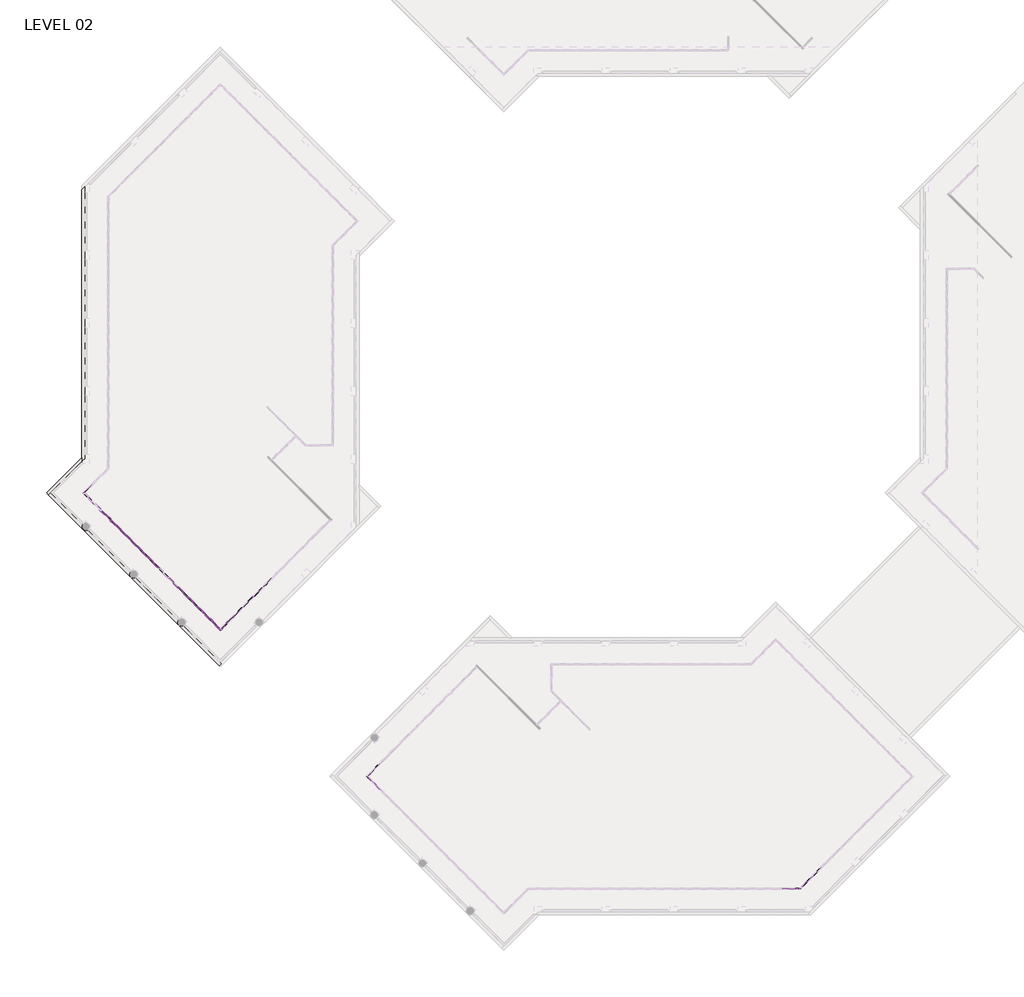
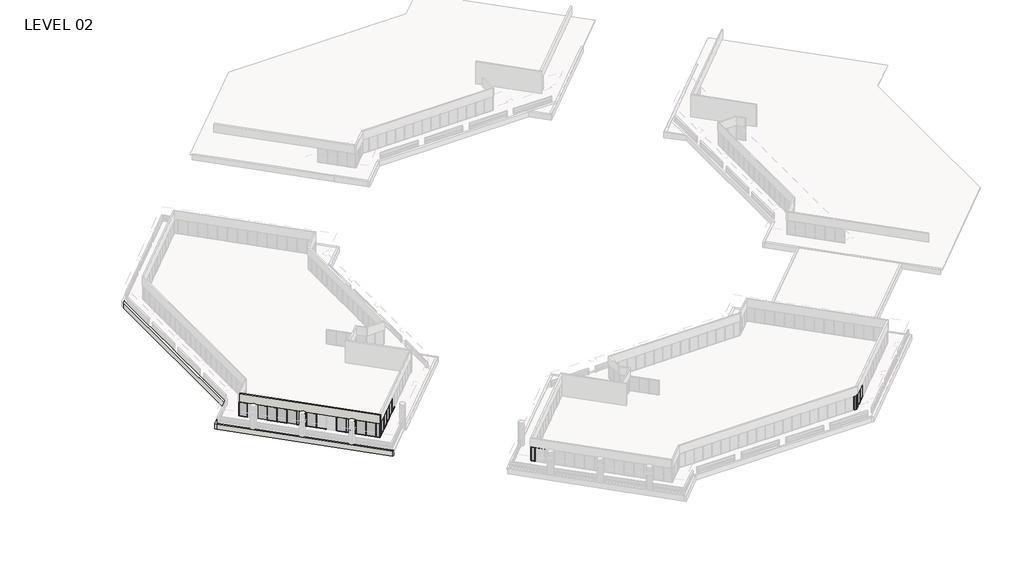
# One storey, part 2 of 19: 77 members, 24 plates, 4 walls.
"""IFC4 building model written with IfcOpenShell, lengths in millimetres."""

from ifc_helpers import new_model, si_unit, origin, place, context, project, spatial, faceted_brep, transform, mapped, element, save
from components import member_5247f267, member_16770488, member_1d3a199d, member_b8d22739, member_e44af9ab, member_800970d4, member_e56bd8eb, member_c23f844a, member_6d95746d, plate_67294edd, plate_53ca565f, plate_8062c6fe, plate_4e8ae714, plate_aaac5d3d, plate_e2551f41, plate_50b9cd61, plate_048e4634, plate_c15461e5

model = new_model("IFC4")

# Units and contexts
model_context = context("Model", 3, world=origin())
ifc_project = project(units=[si_unit("LENGTHUNIT", "METRE", prefix="MILLI")], contexts=[model_context])

# Site, building, storey
site = spatial("IfcSite", under=ifc_project)
building = spatial("IfcBuilding", under=site)
storey = spatial("IfcBuildingStorey", under=building, Name="LEVEL 02", Elevation=4140.2)

# Members
placement = place(None, origin())
member_shape = member_5247f267(model_context)
element("IfcMember", 1, ObjectType="Rectangular Mullion : 2\" x 4.5\" rectangular", at=placement, inside=storey, context=model_context, shape_type="MappedRepresentation", body=[
    mapped(member_shape, transform((-305.3287081, 10934.8596666, 4140.2), x_axis=(0.0, 0.0, -1.0), y_axis=(0.707106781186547, -0.7071067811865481, 0.0), z_axis=(-0.707106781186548, -0.7071067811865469, 0.0))),
])
element("IfcMember", 2, ObjectType="Rectangular Mullion : 2\" x 4.5\" rectangular", at=placement, inside=storey, context=model_context, shape_type="MappedRepresentation", body=[
    mapped(member_shape, transform((49217.02106, -686.9515705, 4140.2), x_axis=(0.0, 0.0, -1.0), y_axis=(0.7071067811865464, -0.7071067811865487, 0.0), z_axis=(-0.7071067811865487, -0.7071067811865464, 0.0))),
])
element("IfcMember", 3, ObjectType="Rectangular Mullion : 2\" x 4.5\" rectangular", at=placement, inside=storey, context=model_context, shape_type="MappedRepresentation", body=[
    mapped(member_shape, transform((48139.3903254, -1764.5823051, 4140.2), x_axis=(0.0, 0.0, -1.0), y_axis=(0.7071067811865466, -0.7071067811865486, 0.0), z_axis=(-0.7071067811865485, -0.7071067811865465, 0.0))),
])
element("IfcMember", 4, ObjectType="Rectangular Mullion : 2\" x 4.5\" rectangular", at=placement, inside=storey, context=model_context, shape_type="MappedRepresentation", body=[
    mapped(member_shape, transform((47326.55, -2101.1671279, 6731.0), x_axis=(0.0, 0.0, 1.0), y_axis=(0.0, -1.0, 0.0), z_axis=(1.0, 0.0, 0.0))),
])
element("IfcMember", 5, ObjectType="Rectangular Mullion : 2\" x 4.5\" rectangular", at=placement, inside=storey, context=model_context, shape_type="MappedRepresentation", body=[
    mapped(member_shape, transform((49181.1000355, -722.872595, 6731.0), x_axis=(0.0, 0.0, 1.0), y_axis=(0.7071067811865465, -0.7071067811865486, 0.0), z_axis=(0.7071067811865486, 0.7071067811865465, 0.0))),
])
element("IfcMember", 6, ObjectType="Rectangular Mullion : 2\" x 4.5\" rectangular", at=placement, inside=storey, context=model_context, shape_type="MappedRepresentation", body=[
    mapped(member_shape, transform((-305.3287081, 10053.2560776, 6731.0), x_axis=(0.0, 0.0, 1.0), y_axis=(0.707106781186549, 0.7071067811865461, 0.0), z_axis=(-0.7071067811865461, 0.707106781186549, 0.0))),
])
member_2_shape = member_16770488(model_context)
element("IfcMember", 7, ObjectType="Rectangular Mullion : 2\" x 4.5\" rectangular", at=placement, inside=storey, context=model_context, shape_type="MappedRepresentation", body=[
    mapped(member_2_shape, transform((47752.0055026, -2101.1671279, 6731.0), x_axis=(0.0, 0.0, 1.0), y_axis=(0.0, -1.0, 0.0), z_axis=(1.0, 0.0, 0.0))),
])
element("IfcMember", 8, ObjectType="Rectangular Mullion : 2\" x 4.5\" rectangular", at=placement, inside=storey, context=model_context, shape_type="MappedRepresentation", body=[
    mapped(member_2_shape, transform((47377.35, -2101.1671279, 4140.2), x_axis=(0.0, 0.0, -1.0), y_axis=(0.0, -1.0, 0.0), z_axis=(-1.0, 0.0, 0.0))),
])
member_3_shape = member_1d3a199d(model_context)
element("IfcMember", 9, ObjectType="Rectangular Mullion : 2\" x 4.5\" rectangular", at=placement, inside=storey, context=model_context, shape_type="MappedRepresentation", body=[
    mapped(member_3_shape, transform((47838.7265271, -2065.2461034, 4140.2), x_axis=(0.0, 0.0, -1.0), y_axis=(0.7071067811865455, -0.7071067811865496, 0.0), z_axis=(-0.7071067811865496, -0.7071067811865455, 0.0))),
])
element("IfcMember", 10, ObjectType="Rectangular Mullion : 2\" x 4.5\" rectangular", at=placement, inside=storey, context=model_context, shape_type="MappedRepresentation", body=[
    mapped(member_3_shape, transform((48103.4693009, -1800.5033295, 6731.0), x_axis=(0.0, 0.0, 1.0), y_axis=(0.7071067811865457, -0.7071067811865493, 0.0), z_axis=(0.7071067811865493, 0.7071067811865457, 0.0))),
])
member_4_shape = member_b8d22739(model_context)
element("IfcMember", 11, ObjectType="Rectangular Mullion : 2\" x 4.5\" rectangular", at=placement, inside=storey, context=model_context, shape_type="MappedRepresentation", body=[
    mapped(member_4_shape, transform((-710.2094781, 10529.9788966, 4140.2), x_axis=(0.0, 0.0, -1.0), y_axis=(0.7071067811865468, -0.7071067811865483, 0.0), z_axis=(-0.7071067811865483, -0.7071067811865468, 0.0))),
])
element("IfcMember", 12, ObjectType="Rectangular Mullion : 2\" x 4.5\" rectangular", at=placement, inside=storey, context=model_context, shape_type="MappedRepresentation", body=[
    mapped(member_4_shape, transform((-341.2497326, 10089.1771021, 4140.2), x_axis=(0.0, 0.0, -1.0), y_axis=(0.7071067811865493, 0.7071067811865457, 0.0), z_axis=(0.7071067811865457, -0.7071067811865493, 0.0))),
])
element("IfcMember", 13, ObjectType="Rectangular Mullion : 2\" x 4.5\" rectangular", at=placement, inside=storey, context=model_context, shape_type="MappedRepresentation", body=[
    mapped(member_4_shape, transform((-710.2094781, 10458.1368476, 6731.0), x_axis=(0.0, 0.0, 1.0), y_axis=(0.7071067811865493, 0.7071067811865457, 0.0), z_axis=(-0.7071067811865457, 0.7071067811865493, 0.0))),
])
element("IfcMember", 14, ObjectType="Rectangular Mullion : 2\" x 4.5\" rectangular", at=placement, inside=storey, context=model_context, shape_type="MappedRepresentation", body=[
    mapped(member_4_shape, transform((-341.2497326, 10898.9386421, 6731.0), x_axis=(0.0, 0.0, 1.0), y_axis=(0.7071067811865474, -0.7071067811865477, 0.0), z_axis=(0.7071067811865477, 0.7071067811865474, 0.0))),
])
member_5_shape = member_e44af9ab(model_context)
element("IfcMember", 15, ObjectType="Rectangular Mullion : 2\" x 4.5\" rectangular", at=placement, inside=storey, context=model_context, shape_type="MappedRepresentation", body=[
    mapped(member_5_shape, transform((-323.2892204, 10916.8991544, 4140.2), x_axis=(0.7071067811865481, 0.7071067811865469, 0.0), y_axis=(0.7071067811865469, -0.7071067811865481, 0.0), z_axis=(0.0, 0.0, -1.0))),
])
element("IfcMember", 16, ObjectType="Rectangular Mullion : 2\" x 4.5\" rectangular", at=placement, inside=storey, context=model_context, shape_type="MappedRepresentation", body=[
    mapped(member_5_shape, transform((47351.95, -2101.1671279, 4140.2), x_axis=(1.0, 0.0, 0.0), y_axis=(0.0, -1.0, 0.0), z_axis=(0.0, 0.0, -1.0))),
])
element("IfcMember", 17, ObjectType="Rectangular Mullion : 2\" x 4.5\" rectangular", at=placement, inside=storey, context=model_context, shape_type="MappedRepresentation", body=[
    mapped(member_5_shape, transform((49199.0605477, -704.9120828, 4140.2), x_axis=(0.7071067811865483, 0.7071067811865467, 0.0), y_axis=(0.7071067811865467, -0.7071067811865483, 0.0), z_axis=(0.0, 0.0, -1.0))),
])
element("IfcMember", 18, ObjectType="Rectangular Mullion : 2\" x 4.5\" rectangular", at=placement, inside=storey, context=model_context, shape_type="MappedRepresentation", body=[
    mapped(member_5_shape, transform((48121.4298132, -1782.5428173, 4140.2), x_axis=(0.7071067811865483, 0.7071067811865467, 0.0), y_axis=(0.7071067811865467, -0.7071067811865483, 0.0), z_axis=(0.0, 0.0, -1.0))),
])
element("IfcMember", 19, ObjectType="Rectangular Mullion : 2\" x 4.5\" rectangular", at=placement, inside=storey, context=model_context, shape_type="MappedRepresentation", body=[
    mapped(member_5_shape, transform((-323.2892204, 10071.2165899, 4140.2), x_axis=(-0.7071067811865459, 0.7071067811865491, 0.0), y_axis=(0.7071067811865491, 0.7071067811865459, 0.0), z_axis=(0.0, 0.0, -1.0))),
])
member_6_shape = member_800970d4(model_context)
element("IfcMember", 20, ObjectType="Rectangular Mullion : 2\" x 4.5\" rectangular", at=placement, inside=storey, context=model_context, shape_type="MappedRepresentation", body=[
    mapped(member_6_shape, transform((47802.8055026, -2101.1671279, 4140.2), x_axis=(1.0, 0.0, 0.0), y_axis=(0.0, -1.0, 0.0), z_axis=(0.0, 0.0, -1.0))),
])
element("IfcMember", 21, ObjectType="Rectangular Mullion : 2\" x 4.5\" rectangular", at=placement, inside=storey, context=model_context, shape_type="MappedRepresentation", body=[
    mapped(member_6_shape, transform((-746.1305026, 10494.0578721, 4140.2), x_axis=(-0.7071067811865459, 0.7071067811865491, 0.0), y_axis=(0.7071067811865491, 0.7071067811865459, 0.0), z_axis=(0.0, 0.0, -1.0))),
])
element("IfcMember", 22, ObjectType="Rectangular Mullion : 2\" x 4.5\" rectangular", at=placement, inside=storey, context=model_context, shape_type="MappedRepresentation", body=[
    mapped(member_6_shape, transform((47802.8055026, -2101.1671279, 6731.0), x_axis=(-0.7071067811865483, -0.7071067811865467, 0.0), y_axis=(0.7071067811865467, -0.7071067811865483, 0.0), z_axis=(0.0, 0.0, 1.0))),
])
element("IfcMember", 23, ObjectType="Rectangular Mullion : 2\" x 4.5\" rectangular", at=placement, inside=storey, context=model_context, shape_type="MappedRepresentation", body=[
    mapped(member_6_shape, transform((-746.1305026, 10494.0578721, 6731.0), x_axis=(-0.7071067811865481, -0.7071067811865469, 0.0), y_axis=(0.7071067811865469, -0.7071067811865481, 0.0), z_axis=(0.0, 0.0, 1.0))),
])
element("IfcMember", 24, ObjectType="Rectangular Mullion : 2\" x 4.5\" rectangular", at=placement, inside=storey, context=model_context, shape_type="MappedRepresentation", body=[
    mapped(member_shape, transform((-15715.4482119, 28428.3985904, 6731.0), x_axis=(0.0, 0.0, 1.0), y_axis=(0.7071067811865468, -0.7071067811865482, 0.0), z_axis=(0.7071067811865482, 0.7071067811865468, 0.0))),
])
element("IfcMember", 25, ObjectType="Rectangular Mullion : 2\" x 4.5\" rectangular", at=placement, inside=storey, context=model_context, shape_type="MappedRepresentation", body=[
    mapped(member_shape, transform((-12482.5856117, 31661.2611906, 6731.0), x_axis=(0.0, 0.0, 1.0), y_axis=(0.7071067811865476, -0.7071067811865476, 0.0), z_axis=(0.7071067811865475, 0.7071067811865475, 0.0))),
])
element("IfcMember", 26, ObjectType="Rectangular Mullion : 2\" x 4.5\" rectangular", at=placement, inside=storey, context=model_context, shape_type="MappedRepresentation", body=[
    mapped(member_shape, transform((-19794.0229799, 29541.9503495, 6731.0), x_axis=(0.0, 0.0, 1.0), y_axis=(-0.707106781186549, -0.7071067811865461, 0.0), z_axis=(0.7071067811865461, -0.707106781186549, 0.0))),
])
element("IfcMember", 27, ObjectType="Rectangular Mullion : 2\" x 4.5\" rectangular", at=placement, inside=storey, context=model_context, shape_type="MappedRepresentation", body=[
    mapped(member_shape, transform((-20871.6179799, 30619.5453495, 6731.0), x_axis=(0.0, 0.0, 1.0), y_axis=(-0.7071067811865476, -0.7071067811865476, 0.0), z_axis=(0.7071067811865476, -0.7071067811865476, 0.0))),
])
element("IfcMember", 28, ObjectType="Rectangular Mullion : 2\" x 4.5\" rectangular", at=placement, inside=storey, context=model_context, shape_type="MappedRepresentation", body=[
    mapped(member_shape, transform((-21949.2129799, 31697.1403495, 6731.0), x_axis=(0.0, 0.0, 1.0), y_axis=(-0.7071067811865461, -0.707106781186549, 0.0), z_axis=(0.707106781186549, -0.7071067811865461, 0.0))),
])
element("IfcMember", 29, ObjectType="Rectangular Mullion : 2\" x 4.5\" rectangular", at=placement, inside=storey, context=model_context, shape_type="MappedRepresentation", body=[
    mapped(member_shape, transform((-24104.4029799, 33852.3303495, 6731.0), x_axis=(0.0, 0.0, 1.0), y_axis=(-0.7071067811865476, -0.7071067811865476, 0.0), z_axis=(0.7071067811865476, -0.7071067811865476, 0.0))),
])
element("IfcMember", 30, ObjectType="Rectangular Mullion : 2\" x 4.5\" rectangular", at=placement, inside=storey, context=model_context, shape_type="MappedRepresentation", body=[
    mapped(member_shape, transform((-18716.3922454, 28464.3196149, 6731.0), x_axis=(0.0, 0.0, 1.0), y_axis=(-0.7071067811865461, -0.7071067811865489, 0.0), z_axis=(0.7071067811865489, -0.7071067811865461, 0.0))),
])
element("IfcMember", 31, ObjectType="Rectangular Mullion : 2\" x 4.5\" rectangular", at=placement, inside=storey, context=model_context, shape_type="MappedRepresentation", body=[
    mapped(member_shape, transform((-17638.7615109, 27386.6888804, 6731.0), x_axis=(0.0, 0.0, 1.0), y_axis=(-0.7071067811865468, -0.7071067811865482, 0.0), z_axis=(0.7071067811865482, -0.7071067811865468, 0.0))),
])
element("IfcMember", 32, ObjectType="Rectangular Mullion : 2\" x 4.5\" rectangular", at=placement, inside=storey, context=model_context, shape_type="MappedRepresentation", body=[
    mapped(member_shape, transform((-14637.8174773, 29506.029325, 6731.0), x_axis=(0.0, 0.0, 1.0), y_axis=(0.7071067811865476, -0.7071067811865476, 0.0), z_axis=(0.7071067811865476, 0.7071067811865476, 0.0))),
])
element("IfcMember", 33, ObjectType="Rectangular Mullion : 2\" x 4.5\" rectangular", at=placement, inside=storey, context=model_context, shape_type="MappedRepresentation", body=[
    mapped(member_shape, transform((-13560.2015445, 30583.6452578, 6731.0), x_axis=(0.0, 0.0, 1.0), y_axis=(0.7071067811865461, -0.707106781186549, 0.0), z_axis=(0.707106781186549, 0.7071067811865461, 0.0))),
])
element("IfcMember", 34, ObjectType="Rectangular Mullion : 2\" x 4.5\" rectangular", at=placement, inside=storey, context=model_context, shape_type="MappedRepresentation", body=[
    mapped(member_shape, transform((-16757.1579219, 27386.6888804, 4140.2), x_axis=(0.0, 0.0, -1.0), y_axis=(0.7071067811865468, -0.7071067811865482, 0.0), z_axis=(-0.7071067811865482, -0.7071067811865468, 0.0))),
])
element("IfcMember", 35, ObjectType="Rectangular Mullion : 2\" x 4.5\" rectangular", at=placement, inside=storey, context=model_context, shape_type="MappedRepresentation", body=[
    mapped(member_shape, transform((-15679.5271874, 28464.3196149, 4140.2), x_axis=(0.0, 0.0, -1.0), y_axis=(0.7071067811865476, -0.7071067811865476, 0.0), z_axis=(-0.7071067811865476, -0.7071067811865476, 0.0))),
])
element("IfcMember", 36, ObjectType="Rectangular Mullion : 2\" x 4.5\" rectangular", at=placement, inside=storey, context=model_context, shape_type="MappedRepresentation", body=[
    mapped(member_shape, transform((-12446.6645873, 31697.1822151, 4140.2), x_axis=(0.0, 0.0, -1.0), y_axis=(0.7071067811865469, -0.7071067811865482, 0.0), z_axis=(-0.7071067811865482, -0.7071067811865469, 0.0))),
])
element("IfcMember", 37, ObjectType="Rectangular Mullion : 2\" x 4.5\" rectangular", at=placement, inside=storey, context=model_context, shape_type="MappedRepresentation", body=[
    mapped(member_shape, transform((-25146.0769555, 34894.004325, 4140.2), x_axis=(0.0, 0.0, -1.0), y_axis=(-0.7071067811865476, -0.7071067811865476, 0.0), z_axis=(-0.7071067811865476, 0.7071067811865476, 0.0))),
])
element("IfcMember", 38, ObjectType="Rectangular Mullion : 2\" x 4.5\" rectangular", at=placement, inside=storey, context=model_context, shape_type="MappedRepresentation", body=[
    mapped(member_shape, transform((-19758.1019555, 29506.029325, 4140.2), x_axis=(0.0, 0.0, -1.0), y_axis=(-0.7071067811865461, -0.7071067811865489, 0.0), z_axis=(-0.7071067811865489, 0.7071067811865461, 0.0))),
])
element("IfcMember", 39, ObjectType="Rectangular Mullion : 2\" x 4.5\" rectangular", at=placement, inside=storey, context=model_context, shape_type="MappedRepresentation", body=[
    mapped(member_shape, transform((-20835.6969555, 30583.624325, 4140.2), x_axis=(0.0, 0.0, -1.0), y_axis=(-0.707106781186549, -0.7071067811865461, 0.0), z_axis=(-0.7071067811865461, 0.707106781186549, 0.0))),
])
element("IfcMember", 40, ObjectType="Rectangular Mullion : 2\" x 4.5\" rectangular", at=placement, inside=storey, context=model_context, shape_type="MappedRepresentation", body=[
    mapped(member_shape, transform((-21913.2919555, 31661.219325, 4140.2), x_axis=(0.0, 0.0, -1.0), y_axis=(-0.7071067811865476, -0.7071067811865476, 0.0), z_axis=(-0.7071067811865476, 0.7071067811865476, 0.0))),
])
element("IfcMember", 41, ObjectType="Rectangular Mullion : 2\" x 4.5\" rectangular", at=placement, inside=storey, context=model_context, shape_type="MappedRepresentation", body=[
    mapped(member_shape, transform((-24068.4819555, 33816.409325, 4140.2), x_axis=(0.0, 0.0, -1.0), y_axis=(-0.7071067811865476, -0.7071067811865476, 0.0), z_axis=(-0.7071067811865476, 0.7071067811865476, 0.0))),
])
element("IfcMember", 42, ObjectType="Rectangular Mullion : 2\" x 4.5\" rectangular", at=placement, inside=storey, context=model_context, shape_type="MappedRepresentation", body=[
    mapped(member_shape, transform((-18680.4712209, 28428.3985904, 4140.2), x_axis=(0.0, 0.0, -1.0), y_axis=(-0.7071067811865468, -0.7071067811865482, 0.0), z_axis=(-0.7071067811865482, 0.7071067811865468, 0.0))),
])
element("IfcMember", 43, ObjectType="Rectangular Mullion : 2\" x 4.5\" rectangular", at=placement, inside=storey, context=model_context, shape_type="MappedRepresentation", body=[
    mapped(member_shape, transform((-14601.8964529, 29541.9503495, 4140.2), x_axis=(0.0, 0.0, -1.0), y_axis=(0.7071067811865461, -0.707106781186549, 0.0), z_axis=(-0.707106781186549, -0.7071067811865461, 0.0))),
])
element("IfcMember", 44, ObjectType="Rectangular Mullion : 2\" x 4.5\" rectangular", at=placement, inside=storey, context=model_context, shape_type="MappedRepresentation", body=[
    mapped(member_shape, transform((-13524.2805201, 30619.5662823, 4140.2), x_axis=(0.0, 0.0, -1.0), y_axis=(0.7071067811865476, -0.7071067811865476, 0.0), z_axis=(-0.7071067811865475, -0.7071067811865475, 0.0))),
])
element("IfcMember", 45, ObjectType="Rectangular Mullion : 2\" x 4.5\" rectangular", at=placement, inside=storey, context=model_context, shape_type="MappedRepresentation", body=[
    mapped(member_5_shape, transform((-29450.6111069, 39198.5384764, 4140.2), x_axis=(0.7071067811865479, -0.7071067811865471, 0.0), y_axis=(-0.7071067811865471, -0.7071067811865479, 0.0), z_axis=(0.0, 0.0, -1.0))),
])
element("IfcMember", 46, ObjectType="Rectangular Mullion : 2\" x 4.5\" rectangular", at=placement, inside=storey, context=model_context, shape_type="MappedRepresentation", body=[
    mapped(member_5_shape, transform((-28378.9676971, 38126.8950666, 4140.2), x_axis=(0.7071067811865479, -0.7071067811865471, 0.0), y_axis=(-0.7071067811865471, -0.7071067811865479, 0.0), z_axis=(0.0, 0.0, -1.0))),
])
element("IfcMember", 47, ObjectType="Rectangular Mullion : 2\" x 4.5\" rectangular", at=placement, inside=storey, context=model_context, shape_type="MappedRepresentation", body=[
    mapped(member_5_shape, transform((-16775.1184342, 27368.7283682, 4140.2), x_axis=(0.7071067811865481, 0.7071067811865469, 0.0), y_axis=(0.7071067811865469, -0.7071067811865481, 0.0), z_axis=(0.0, 0.0, -1.0))),
])
element("IfcMember", 48, ObjectType="Rectangular Mullion : 2\" x 4.5\" rectangular", at=placement, inside=storey, context=model_context, shape_type="MappedRepresentation", body=[
    mapped(member_5_shape, transform((-15697.4876996, 28446.3591027, 4140.2), x_axis=(0.7071067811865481, 0.7071067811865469, 0.0), y_axis=(0.7071067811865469, -0.7071067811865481, 0.0), z_axis=(0.0, 0.0, -1.0))),
])
element("IfcMember", 49, ObjectType="Rectangular Mullion : 2\" x 4.5\" rectangular", at=placement, inside=storey, context=model_context, shape_type="MappedRepresentation", body=[
    mapped(member_5_shape, transform((-12464.6250995, 31679.2217028, 4140.2), x_axis=(0.7071067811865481, 0.7071067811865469, 0.0), y_axis=(0.7071067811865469, -0.7071067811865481, 0.0), z_axis=(0.0, 0.0, -1.0))),
])
element("IfcMember", 50, ObjectType="Rectangular Mullion : 2\" x 4.5\" rectangular", at=placement, inside=storey, context=model_context, shape_type="MappedRepresentation", body=[
    mapped(member_5_shape, transform((-26235.6808775, 35983.608247, 4140.2), x_axis=(0.7071067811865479, -0.7071067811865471, 0.0), y_axis=(-0.7071067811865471, -0.7071067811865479, 0.0), z_axis=(0.0, 0.0, -1.0))),
])
element("IfcMember", 51, ObjectType="Rectangular Mullion : 2\" x 4.5\" rectangular", at=placement, inside=storey, context=model_context, shape_type="MappedRepresentation", body=[
    mapped(member_5_shape, transform((-25164.0374677, 34911.9648372, 4140.2), x_axis=(0.7071067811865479, -0.7071067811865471, 0.0), y_axis=(-0.7071067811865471, -0.7071067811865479, 0.0), z_axis=(0.0, 0.0, -1.0))),
])
element("IfcMember", 52, ObjectType="Rectangular Mullion : 2\" x 4.5\" rectangular", at=placement, inside=storey, context=model_context, shape_type="MappedRepresentation", body=[
    mapped(member_5_shape, transform((-19776.0624677, 29523.9898372, 4140.2), x_axis=(0.7071067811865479, -0.7071067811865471, 0.0), y_axis=(-0.7071067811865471, -0.7071067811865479, 0.0), z_axis=(0.0, 0.0, -1.0))),
])
element("IfcMember", 53, ObjectType="Rectangular Mullion : 2\" x 4.5\" rectangular", at=placement, inside=storey, context=model_context, shape_type="MappedRepresentation", body=[
    mapped(member_5_shape, transform((-20853.6574677, 30601.5848372, 4140.2), x_axis=(0.7071067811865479, -0.7071067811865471, 0.0), y_axis=(-0.7071067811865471, -0.7071067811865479, 0.0), z_axis=(0.0, 0.0, -1.0))),
])
element("IfcMember", 54, ObjectType="Rectangular Mullion : 2\" x 4.5\" rectangular", at=placement, inside=storey, context=model_context, shape_type="MappedRepresentation", body=[
    mapped(member_5_shape, transform((-21931.2524677, 31679.1798372, 4140.2), x_axis=(0.7071067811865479, -0.7071067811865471, 0.0), y_axis=(-0.7071067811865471, -0.7071067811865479, 0.0), z_axis=(0.0, 0.0, -1.0))),
])
element("IfcMember", 55, ObjectType="Rectangular Mullion : 2\" x 4.5\" rectangular", at=placement, inside=storey, context=model_context, shape_type="MappedRepresentation", body=[
    mapped(member_5_shape, transform((-24086.4424677, 33834.3698372, 4140.2), x_axis=(0.7071067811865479, -0.7071067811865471, 0.0), y_axis=(-0.7071067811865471, -0.7071067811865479, 0.0), z_axis=(0.0, 0.0, -1.0))),
])
element("IfcMember", 56, ObjectType="Rectangular Mullion : 2\" x 4.5\" rectangular", at=placement, inside=storey, context=model_context, shape_type="MappedRepresentation", body=[
    mapped(member_5_shape, transform((-18698.4317332, 28446.3591027, 4140.2), x_axis=(0.7071067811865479, -0.7071067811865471, 0.0), y_axis=(-0.7071067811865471, -0.7071067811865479, 0.0), z_axis=(0.0, 0.0, -1.0))),
])
element("IfcMember", 57, ObjectType="Rectangular Mullion : 2\" x 4.5\" rectangular", at=placement, inside=storey, context=model_context, shape_type="MappedRepresentation", body=[
    mapped(member_5_shape, transform((-17620.8009986, 27368.7283682, 4140.2), x_axis=(0.7071067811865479, -0.7071067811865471, 0.0), y_axis=(-0.7071067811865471, -0.7071067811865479, 0.0), z_axis=(0.0, 0.0, -1.0))),
])
element("IfcMember", 58, ObjectType="Rectangular Mullion : 2\" x 4.5\" rectangular", at=placement, inside=storey, context=model_context, shape_type="MappedRepresentation", body=[
    mapped(member_5_shape, transform((-14619.8569651, 29523.9898372, 4140.2), x_axis=(0.7071067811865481, 0.7071067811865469, 0.0), y_axis=(0.7071067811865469, -0.7071067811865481, 0.0), z_axis=(0.0, 0.0, -1.0))),
])
element("IfcMember", 59, ObjectType="Rectangular Mullion : 2\" x 4.5\" rectangular", at=placement, inside=storey, context=model_context, shape_type="MappedRepresentation", body=[
    mapped(member_5_shape, transform((-13542.2410323, 30601.60577, 4140.2), x_axis=(0.7071067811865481, 0.7071067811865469, 0.0), y_axis=(0.7071067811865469, -0.7071067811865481, 0.0), z_axis=(0.0, 0.0, -1.0))),
])
element("IfcMember", 60, ObjectType="Rectangular Mullion : 2\" x 4.5\" rectangular", at=placement, inside=storey, context=model_context, shape_type="MappedRepresentation", body=[
    mapped(member_6_shape, transform((-32530.040219, 42277.9675885, 4140.2), x_axis=(-0.7071067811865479, -0.7071067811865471, 0.0), y_axis=(-0.7071067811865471, 0.7071067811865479, 0.0), z_axis=(0.0, 0.0, -1.0))),
])
element("IfcMember", 61, ObjectType="Rectangular Mullion : 2\" x 4.5\" rectangular", at=placement, inside=storey, context=model_context, shape_type="MappedRepresentation", body=[
    mapped(member_6_shape, transform((-17197.9597164, 26945.8870859, 4140.2), x_axis=(0.7071067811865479, -0.7071067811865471, 0.0), y_axis=(-0.7071067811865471, -0.7071067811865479, 0.0), z_axis=(0.0, 0.0, -1.0))),
])
element("IfcMember", 62, ObjectType="Rectangular Mullion : 2\" x 4.5\" rectangular", at=placement, inside=storey, context=model_context, shape_type="MappedRepresentation", body=[
    mapped(member_6_shape, transform((-32530.040219, 42277.9675885, 6731.0), x_axis=(-0.7071067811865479, 0.7071067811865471, 0.0), y_axis=(-0.7071067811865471, -0.7071067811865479, 0.0), z_axis=(0.0, 0.0, 1.0))),
])
element("IfcMember", 63, ObjectType="Rectangular Mullion : 2\" x 4.5\" rectangular", at=placement, inside=storey, context=model_context, shape_type="MappedRepresentation", body=[
    mapped(member_6_shape, transform((-17197.9597164, 26945.8870859, 6731.0), x_axis=(-0.7071067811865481, -0.7071067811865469, 0.0), y_axis=(0.7071067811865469, -0.7071067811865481, 0.0), z_axis=(0.0, 0.0, 1.0))),
])
element("IfcMember", 64, ObjectType="Rectangular Mullion : 2\" x 4.5\" rectangular", at=placement, inside=storey, context=model_context, shape_type="MappedRepresentation", body=[
    mapped(member_4_shape, transform((-17162.0386919, 26981.8081104, 4140.2), x_axis=(0.0, 0.0, -1.0), y_axis=(0.7071067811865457, -0.7071067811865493, 0.0), z_axis=(-0.7071067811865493, -0.7071067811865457, 0.0))),
])
element("IfcMember", 65, ObjectType="Rectangular Mullion : 2\" x 4.5\" rectangular", at=placement, inside=storey, context=model_context, shape_type="MappedRepresentation", body=[
    mapped(member_4_shape, transform((-17602.8404864, 27350.7678559, 4140.2), x_axis=(0.0, 0.0, -1.0), y_axis=(-0.7071067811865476, -0.7071067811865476, 0.0), z_axis=(-0.7071067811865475, 0.7071067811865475, 0.0))),
])
element("IfcMember", 66, ObjectType="Rectangular Mullion : 2\" x 4.5\" rectangular", at=placement, inside=storey, context=model_context, shape_type="MappedRepresentation", body=[
    mapped(member_4_shape, transform((-17233.8807409, 26981.8081104, 6731.0), x_axis=(0.0, 0.0, 1.0), y_axis=(-0.7071067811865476, -0.7071067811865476, 0.0), z_axis=(0.7071067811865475, -0.7071067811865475, 0.0))),
])
element("IfcMember", 67, ObjectType="Rectangular Mullion : 2\" x 4.5\" rectangular", at=placement, inside=storey, context=model_context, shape_type="MappedRepresentation", body=[
    mapped(member_4_shape, transform((-16793.0789464, 27350.7678559, 6731.0), x_axis=(0.0, 0.0, 1.0), y_axis=(0.7071067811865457, -0.7071067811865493, 0.0), z_axis=(0.7071067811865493, 0.7071067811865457, 0.0))),
])
member_7_shape = member_e56bd8eb(model_context)
element("IfcMember", 68, ObjectType="Rectangular Mullion : 2\" x 4.5\" rectangular", at=placement, inside=storey, context=model_context, shape_type="MappedRepresentation", body=[
    mapped(member_7_shape, transform((-32494.1191945, 42313.888613, 6731.0), x_axis=(0.0, 0.0, 1.0), y_axis=(-0.7071067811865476, 0.7071067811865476, 0.0), z_axis=(-0.7071067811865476, -0.7071067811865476, 0.0))),
])
member_8_shape = member_c23f844a(model_context)
element("IfcMember", 69, ObjectType="Rectangular Mullion : 2\" x 4.5\" rectangular", at=placement, inside=storey, context=model_context, shape_type="MappedRepresentation", body=[
    mapped(member_8_shape, transform((-29468.5716191, 39216.4989886, 6731.0), x_axis=(0.0, 0.0, 1.0), y_axis=(-0.7071067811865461, -0.707106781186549, 0.0), z_axis=(0.7071067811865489, -0.707106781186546, 0.0))),
])
element("IfcMember", 70, ObjectType="Rectangular Mullion : 2\" x 4.5\" rectangular", at=placement, inside=storey, context=model_context, shape_type="MappedRepresentation", body=[
    mapped(member_8_shape, transform((-28396.9282093, 38144.8555788, 6731.0), x_axis=(0.0, 0.0, 1.0), y_axis=(-0.7071067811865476, -0.7071067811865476, 0.0), z_axis=(0.7071067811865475, -0.7071067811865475, 0.0))),
])
element("IfcMember", 71, ObjectType="Rectangular Mullion : 2\" x 4.5\" rectangular", at=placement, inside=storey, context=model_context, shape_type="MappedRepresentation", body=[
    mapped(member_8_shape, transform((-27325.2847995, 37073.212169, 6731.0), x_axis=(0.0, 0.0, 1.0), y_axis=(-0.7071067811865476, -0.7071067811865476, 0.0), z_axis=(0.7071067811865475, -0.7071067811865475, 0.0))),
])
element("IfcMember", 72, ObjectType="Rectangular Mullion : 2\" x 4.5\" rectangular", at=placement, inside=storey, context=model_context, shape_type="MappedRepresentation", body=[
    mapped(member_8_shape, transform((-26253.6413897, 36001.5687593, 6731.0), x_axis=(0.0, 0.0, 1.0), y_axis=(-0.7071067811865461, -0.707106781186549, 0.0), z_axis=(0.7071067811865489, -0.707106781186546, 0.0))),
])
element("IfcMember", 73, ObjectType="Rectangular Mullion : 2\" x 4.5\" rectangular", at=placement, inside=storey, context=model_context, shape_type="MappedRepresentation", body=[
    mapped(member_8_shape, transform((-25181.9979799, 34929.9253495, 6731.0), x_axis=(0.0, 0.0, 1.0), y_axis=(-0.7071067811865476, -0.7071067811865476, 0.0), z_axis=(0.7071067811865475, -0.7071067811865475, 0.0))),
])
member_9_shape = member_6d95746d(model_context)
element("IfcMember", 74, ObjectType="Rectangular Mullion : 2\" x 4.5\" rectangular", at=placement, inside=storey, context=model_context, shape_type="MappedRepresentation", body=[
    mapped(member_9_shape, transform((-32494.1191945, 42242.046564, 4140.2), x_axis=(0.0, 0.0, -1.0), y_axis=(-0.7071067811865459, -0.7071067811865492, 0.0), z_axis=(-0.7071067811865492, 0.7071067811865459, 0.0))),
])
element("IfcMember", 75, ObjectType="Rectangular Mullion : 2\" x 4.5\" rectangular", at=placement, inside=storey, context=model_context, shape_type="MappedRepresentation", body=[
    mapped(member_8_shape, transform((-29432.6505946, 39180.5779642, 4140.2), x_axis=(0.0, 0.0, -1.0), y_axis=(-0.7071067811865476, -0.7071067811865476, 0.0), z_axis=(-0.7071067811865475, 0.7071067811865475, 0.0))),
])
element("IfcMember", 76, ObjectType="Rectangular Mullion : 2\" x 4.5\" rectangular", at=placement, inside=storey, context=model_context, shape_type="MappedRepresentation", body=[
    mapped(member_8_shape, transform((-28361.0071848, 38108.9345544, 4140.2), x_axis=(0.0, 0.0, -1.0), y_axis=(-0.7071067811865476, -0.7071067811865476, 0.0), z_axis=(-0.7071067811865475, 0.7071067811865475, 0.0))),
])
element("IfcMember", 77, ObjectType="Rectangular Mullion : 2\" x 4.5\" rectangular", at=placement, inside=storey, context=model_context, shape_type="MappedRepresentation", body=[
    mapped(member_8_shape, transform((-26217.7203653, 35965.6477348, 4140.2), x_axis=(0.0, 0.0, -1.0), y_axis=(-0.7071067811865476, -0.7071067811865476, 0.0), z_axis=(-0.7071067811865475, 0.7071067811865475, 0.0))),
])

# Plates
plate_shape = plate_67294edd(model_context)
element("IfcPlate", 78, ObjectType="System Panel : 1/4\" Glass", at=placement, inside=storey, context=model_context, shape_type="MappedRepresentation", body=[
    mapped(plate_shape, transform((49737.875915, -166.0967155, 4191.0), x_axis=(0.7071067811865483, 0.7071067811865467, 0.0), y_axis=(-0.7071067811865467, 0.7071067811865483, 0.0), z_axis=(0.0, 0.0, 1.0))),
])
element("IfcPlate", 79, ObjectType="System Panel : 1/4\" Glass", at=placement, inside=storey, context=model_context, shape_type="MappedRepresentation", body=[
    mapped(plate_shape, transform((48660.2451805, -1243.72745, 4191.0), x_axis=(0.7071067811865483, 0.7071067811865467, 0.0), y_axis=(-0.7071067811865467, 0.7071067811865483, 0.0), z_axis=(0.0, 0.0, 1.0))),
])
plate_2_shape = plate_53ca565f(model_context)
element("IfcPlate", 80, ObjectType="System Panel : 1/4\" Glass", at=placement, inside=storey, context=model_context, shape_type="MappedRepresentation", body=[
    mapped(plate_2_shape, transform((47564.6777513, -2101.1671279, 4191.0), x_axis=(1.0, 0.0, 0.0), y_axis=(0.0, 1.0, 0.0), z_axis=(0.0, 0.0, 1.0))),
])
plate_3_shape = plate_8062c6fe(model_context)
element("IfcPlate", 81, ObjectType="System Panel : 1/4\" Glass", at=placement, inside=storey, context=model_context, shape_type="MappedRepresentation", body=[
    mapped(plate_3_shape, transform((47971.097914, -1932.8747165, 4191.0), x_axis=(0.7071067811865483, 0.7071067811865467, 0.0), y_axis=(-0.7071067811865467, 0.7071067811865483, 0.0), z_axis=(0.0, 0.0, 1.0))),
])
plate_4_shape = plate_4e8ae714(model_context)
element("IfcPlate", 82, ObjectType="System Panel : 1/4\" Glass", at=placement, inside=storey, context=model_context, shape_type="MappedRepresentation", body=[
    mapped(plate_4_shape, transform((-525.7296054, 10714.4587694, 4191.0), x_axis=(0.7071067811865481, 0.7071067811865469, 0.0), y_axis=(-0.7071067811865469, 0.7071067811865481, 0.0), z_axis=(0.0, 0.0, 1.0))),
])
element("IfcPlate", 83, ObjectType="System Panel : 1/4\" Glass", at=placement, inside=storey, context=model_context, shape_type="MappedRepresentation", body=[
    mapped(plate_4_shape, transform((-525.7296054, 10273.6569749, 4191.0), x_axis=(-0.7071067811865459, 0.7071067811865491, 0.0), y_axis=(-0.7071067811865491, -0.7071067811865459, 0.0), z_axis=(0.0, 0.0, 1.0))),
])
element("IfcPlate", 84, ObjectType="System Panel : 1/4\" Glass", at=placement, inside=storey, context=model_context, shape_type="MappedRepresentation", body=[
    mapped(plate_shape, transform((-16236.3030669, 27907.5437354, 4191.0), x_axis=(0.7071067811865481, 0.7071067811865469, 0.0), y_axis=(-0.7071067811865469, 0.7071067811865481, 0.0), z_axis=(0.0, 0.0, 1.0))),
])
element("IfcPlate", 85, ObjectType="System Panel : 1/4\" Glass", at=placement, inside=storey, context=model_context, shape_type="MappedRepresentation", body=[
    mapped(plate_shape, transform((-15158.6723324, 28985.17447, 4191.0), x_axis=(0.7071067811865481, 0.7071067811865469, 0.0), y_axis=(-0.7071067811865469, 0.7071067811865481, 0.0), z_axis=(0.0, 0.0, 1.0))),
])
element("IfcPlate", 86, ObjectType="System Panel : 1/4\" Glass", at=placement, inside=storey, context=model_context, shape_type="MappedRepresentation", body=[
    mapped(plate_shape, transform((-19237.2471004, 28985.17447, 4191.0), x_axis=(0.7071067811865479, -0.7071067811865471, 0.0), y_axis=(0.7071067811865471, 0.7071067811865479, 0.0), z_axis=(0.0, 0.0, 1.0))),
])
element("IfcPlate", 87, ObjectType="System Panel : 1/4\" Glass", at=placement, inside=storey, context=model_context, shape_type="MappedRepresentation", body=[
    mapped(plate_shape, transform((-18159.6163659, 27907.5437354, 4191.0), x_axis=(0.7071067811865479, -0.7071067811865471, 0.0), y_axis=(0.7071067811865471, 0.7071067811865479, 0.0), z_axis=(0.0, 0.0, 1.0))),
])
element("IfcPlate", 88, ObjectType="System Panel : 1/4\" Glass", at=placement, inside=storey, context=model_context, shape_type="MappedRepresentation", body=[
    mapped(plate_4_shape, transform((-16977.5588192, 27166.2879832, 4191.0), x_axis=(0.7071067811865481, 0.7071067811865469, 0.0), y_axis=(-0.7071067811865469, 0.7071067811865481, 0.0), z_axis=(0.0, 0.0, 1.0))),
])
element("IfcPlate", 89, ObjectType="System Panel : 1/4\" Glass", at=placement, inside=storey, context=model_context, shape_type="MappedRepresentation", body=[
    mapped(plate_4_shape, transform((-17418.3606136, 27166.2879832, 4191.0), x_axis=(0.7071067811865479, -0.7071067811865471, 0.0), y_axis=(0.7071067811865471, 0.7071067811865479, 0.0), z_axis=(0.0, 0.0, 1.0))),
])
plate_5_shape = plate_aaac5d3d(model_context)
element("IfcPlate", 90, ObjectType="System Panel : 1/4\" Glass", at=placement, inside=storey, context=model_context, shape_type="MappedRepresentation", body=[
    mapped(plate_5_shape, transform((-14081.0489987, 30062.7978036, 4191.0), x_axis=(0.7071067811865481, 0.7071067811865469, 0.0), y_axis=(-0.7071067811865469, 0.7071067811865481, 0.0), z_axis=(0.0, 0.0, 1.0))),
])
element("IfcPlate", 91, ObjectType="System Panel : 1/4\" Glass", at=placement, inside=storey, context=model_context, shape_type="MappedRepresentation", body=[
    mapped(plate_5_shape, transform((-13003.4330659, 31140.4137364, 4191.0), x_axis=(0.7071067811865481, 0.7071067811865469, 0.0), y_axis=(-0.7071067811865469, 0.7071067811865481, 0.0), z_axis=(0.0, 0.0, 1.0))),
])
plate_6_shape = plate_e2551f41(model_context)
element("IfcPlate", 92, ObjectType="System Panel : 1/4\" Glass", at=placement, inside=storey, context=model_context, shape_type="MappedRepresentation", body=[
    mapped(plate_6_shape, transform((-32055.982479, 41803.9098485, 4191.0), x_axis=(0.7071067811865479, -0.7071067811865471, 0.0), y_axis=(0.7071067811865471, 0.7071067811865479, 0.0), z_axis=(0.0, 0.0, 1.0))),
])
plate_7_shape = plate_50b9cd61(model_context)
element("IfcPlate", 93, ObjectType="System Panel : 1/4\" Glass", at=placement, inside=storey, context=model_context, shape_type="MappedRepresentation", body=[
    mapped(plate_7_shape, transform((-29986.4328118, 39734.3601813, 4191.0), x_axis=(0.7071067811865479, -0.7071067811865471, 0.0), y_axis=(0.7071067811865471, 0.7071067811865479, 0.0), z_axis=(0.0, 0.0, 1.0))),
])
element("IfcPlate", 94, ObjectType="System Panel : 1/4\" Glass", at=placement, inside=storey, context=model_context, shape_type="MappedRepresentation", body=[
    mapped(plate_7_shape, transform((-28914.789402, 38662.7167715, 4191.0), x_axis=(0.7071067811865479, -0.7071067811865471, 0.0), y_axis=(0.7071067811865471, 0.7071067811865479, 0.0), z_axis=(0.0, 0.0, 1.0))),
])
element("IfcPlate", 95, ObjectType="System Panel : 1/4\" Glass", at=placement, inside=storey, context=model_context, shape_type="MappedRepresentation", body=[
    mapped(plate_7_shape, transform((-27843.1459922, 37591.0733617, 4191.0), x_axis=(0.7071067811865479, -0.7071067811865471, 0.0), y_axis=(0.7071067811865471, 0.7071067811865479, 0.0), z_axis=(0.0, 0.0, 1.0))),
])
element("IfcPlate", 96, ObjectType="System Panel : 1/4\" Glass", at=placement, inside=storey, context=model_context, shape_type="MappedRepresentation", body=[
    mapped(plate_7_shape, transform((-26771.5025824, 36519.4299519, 4191.0), x_axis=(0.7071067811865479, -0.7071067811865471, 0.0), y_axis=(0.7071067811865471, 0.7071067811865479, 0.0), z_axis=(0.0, 0.0, 1.0))),
])
element("IfcPlate", 97, ObjectType="System Panel : 1/4\" Glass", at=placement, inside=storey, context=model_context, shape_type="MappedRepresentation", body=[
    mapped(plate_7_shape, transform((-25699.8591726, 35447.7865421, 4191.0), x_axis=(0.7071067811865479, -0.7071067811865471, 0.0), y_axis=(0.7071067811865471, 0.7071067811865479, 0.0), z_axis=(0.0, 0.0, 1.0))),
])
plate_8_shape = plate_048e4634(model_context)
element("IfcPlate", 98, ObjectType="System Panel : 1/4\" Glass", at=placement, inside=storey, context=model_context, shape_type="MappedRepresentation", body=[
    mapped(plate_8_shape, transform((-24625.2399677, 34373.1673372, 4191.0), x_axis=(0.7071067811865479, -0.7071067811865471, 0.0), y_axis=(0.7071067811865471, 0.7071067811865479, 0.0), z_axis=(0.0, 0.0, 1.0))),
])
element("IfcPlate", 99, ObjectType="System Panel : 1/4\" Glass", at=placement, inside=storey, context=model_context, shape_type="MappedRepresentation", body=[
    mapped(plate_8_shape, transform((-20314.8599677, 30062.7873372, 4191.0), x_axis=(0.7071067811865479, -0.7071067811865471, 0.0), y_axis=(0.7071067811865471, 0.7071067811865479, 0.0), z_axis=(0.0, 0.0, 1.0))),
])
element("IfcPlate", 100, ObjectType="System Panel : 1/4\" Glass", at=placement, inside=storey, context=model_context, shape_type="MappedRepresentation", body=[
    mapped(plate_8_shape, transform((-21392.4549677, 31140.3823372, 4191.0), x_axis=(0.7071067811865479, -0.7071067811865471, 0.0), y_axis=(0.7071067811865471, 0.7071067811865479, 0.0), z_axis=(0.0, 0.0, 1.0))),
])
plate_9_shape = plate_c15461e5(model_context)
element("IfcPlate", 101, ObjectType="System Panel : 1/4\" Glass", at=placement, inside=storey, context=model_context, shape_type="MappedRepresentation", body=[
    mapped(plate_9_shape, transform((-32045.4614545, 42762.546353, 4191.0), x_axis=(-0.7071067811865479, -0.7071067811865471, 0.0), y_axis=(0.7071067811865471, -0.7071067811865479, 0.0), z_axis=(0.0, 0.0, 1.0))),
])

# Walls
element("IfcWall", 102, ObjectType="01-CONCRETE-12", at=placement, inside=storey, context=model_context, shape_type="Brep", body=[
    faceted_brep([(-32739.5847164, 76284.2096375, 3225.8), (-32739.5847164, 46235.2619313, 3225.8), (-32739.5847164, 45804.2096375, 3225.8), (-32739.5847164, 45804.2096375, 4140.2), (-32739.5847164, 46235.2619313, 4140.2), (-32739.5847164, 76284.2096375, 4140.2), (-32434.7847164, 76589.0096375, 3225.8), (-32434.7847164, 76589.0096375, 4140.2), (-32434.7847164, 76094.8311968, 4140.2), (-32434.7847164, 69379.0198823, 4140.2), (-32434.7847164, 68516.9152947, 4140.2), (-32434.7847164, 61759.0198823, 4140.2), (-32434.7847164, 60896.9152947, 4140.2), (-32434.7847164, 54139.0198823, 4140.2), (-32434.7847164, 53276.9152947, 4140.2), (-32434.7847164, 46519.0198823, 4140.2), (-32434.7847164, 46109.0096375, 4140.2), (-32434.7847164, 46109.0096375, 3225.8), (-32434.7847164, 46519.0198823, 3225.8), (-32434.7847164, 53276.9152947, 3225.8), (-32434.7847164, 54139.0198823, 3225.8), (-32434.7847164, 60896.9152947, 3225.8), (-32434.7847164, 61759.0198823, 3225.8), (-32434.7847164, 68516.9152947, 3225.8), (-32434.7847164, 69379.0198823, 3225.8), (-32434.7847164, 76094.8311968, 3225.8), (-32680.5465602, 45863.2477937, 3225.8), (-32680.5465602, 45863.2477937, 4140.2)], [[[0, 1, 2, 3, 4, 5]], [[6, 7, 8, 9, 10, 11, 12, 13, 14, 15, 16, 17, 18, 19, 20, 21, 22, 23, 24, 25]], [[2, 1, 0, 6, 25, 24, 23, 22, 21, 20, 19, 18, 17, 26]], [[5, 4, 3, 27, 16, 15, 14, 13, 12, 11, 10, 9, 8, 7]], [[0, 5, 7, 6]], [[3, 2, 26, 17, 16, 27]]]),
])
element("IfcWall", 103, ObjectType="01-CONCRETE-12", at=placement, inside=storey, context=model_context, shape_type="Brep", body=[
    faceted_brep([(-32739.5847164, 46235.2619313, 3225.8), (-36696.8790592, 42277.9675885, 3225.8), (-36696.8790592, 42277.9675885, 4140.2), (-32739.5847164, 46235.2619313, 4140.2), (-32739.5847164, 45804.2096375, 3225.8), (-32739.5847164, 45804.2096375, 4140.2), (-36265.8267654, 42277.9675885, 4140.2), (-36481.3529123, 42062.4414416, 4140.2), (-36481.3529123, 42062.4414416, 3225.8), (-36265.8267654, 42277.9675885, 3225.8)], [[[0, 1, 2, 3]], [[4, 5, 6, 7, 8, 9]], [[1, 0, 4, 9, 8]], [[3, 2, 7, 6, 5]], [[0, 3, 5, 4]], [[2, 1, 8, 7]]]),
])
element("IfcWall", 104, ObjectType="01-CONCRETE-12", at=placement, inside=storey, context=model_context, shape_type="Brep", body=[
    faceted_brep([(-36481.3529123, 42062.4414416, 3225.8), (-17305.7227899, 22886.8113192, 3225.8), (-17305.7227899, 22886.8113192, 4140.2), (-34606.3464265, 40187.4349558, 4140.2), (-34714.1094999, 40295.1980293, 4140.2), (-36481.3529123, 42062.4414416, 4140.2), (-36265.8267654, 42277.9675885, 3225.8), (-36265.8267654, 42277.9675885, 4140.2), (-17090.1966429, 23102.3374661, 4140.2), (-17090.1966429, 23102.3374661, 3225.8), (-33492.7946674, 39504.9354906, 3225.8), (-33636.4787654, 39648.6195885, 3225.8), (-34498.583353, 40510.7241762, 3225.8), (-34714.1094999, 40726.2503231, 3225.8)], [[[0, 1, 2, 3, 4, 5]], [[6, 7, 8, 9, 10, 11, 12, 13]], [[1, 0, 6, 13, 12, 11, 10, 9]], [[2, 1, 9, 8]], [[5, 4, 3, 2, 8, 7]], [[0, 5, 7, 6]]]),
])
element("IfcWall", 105, ObjectType="8\" Existing Wall", at=placement, inside=storey, context=model_context, shape_type="Brep", body=[
    faceted_brep([(-32530.040219, 42134.2834906, 6731.0), (-17197.9597164, 26802.202988, 6731.0), (-17197.9597164, 26802.202988, 8229.6), (-32530.040219, 42134.2834906, 8229.6), (-32386.3561211, 42277.9675885, 6731.0), (-32386.3561211, 42277.9675885, 8229.6), (-17197.9597164, 27089.5711839, 8229.6), (-17054.2756185, 26945.8870859, 8229.6), (-17054.2756185, 26945.8870859, 6731.0), (-17197.9597164, 27089.5711839, 6731.0)], [[[0, 1, 2, 3]], [[4, 5, 6, 7, 8, 9]], [[1, 0, 4, 9, 8]], [[3, 2, 7, 6, 5]], [[0, 3, 5, 4]], [[2, 1, 8, 7]]]),
])

save(model, "model.ifc")
